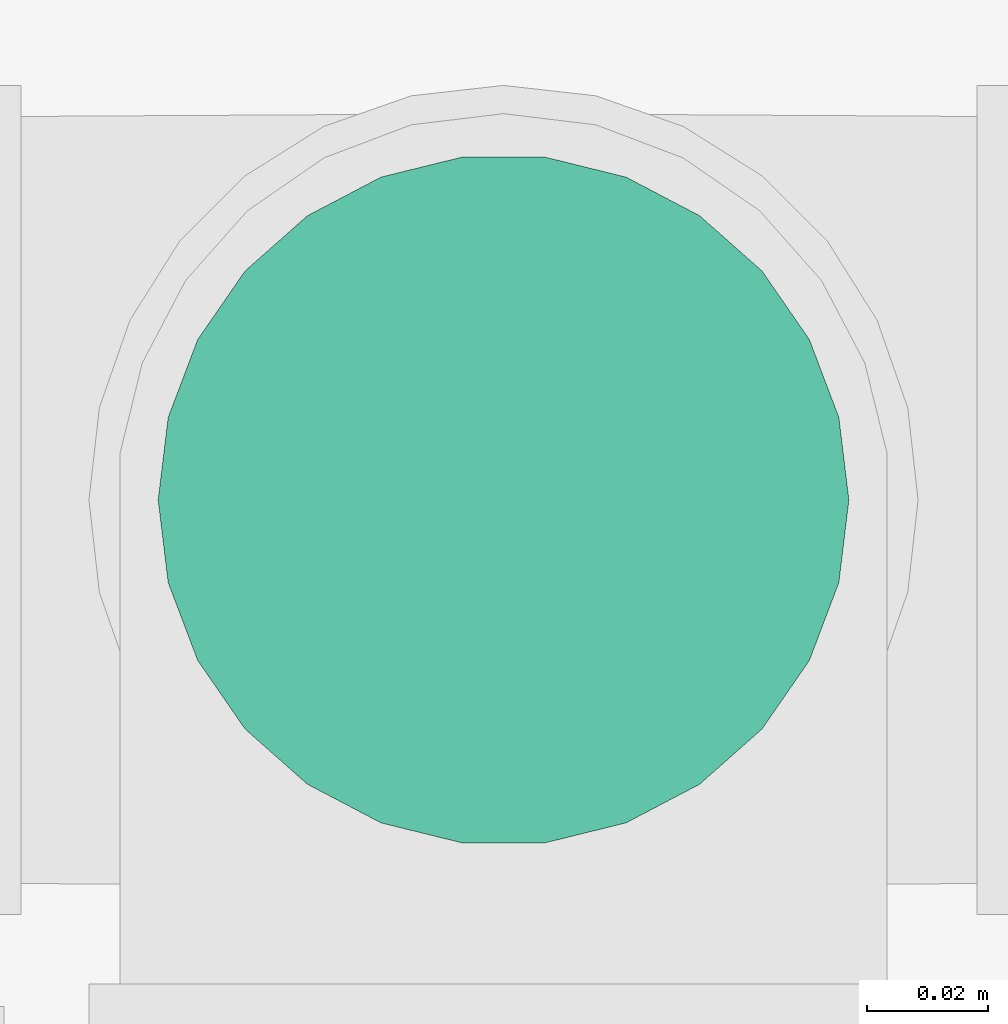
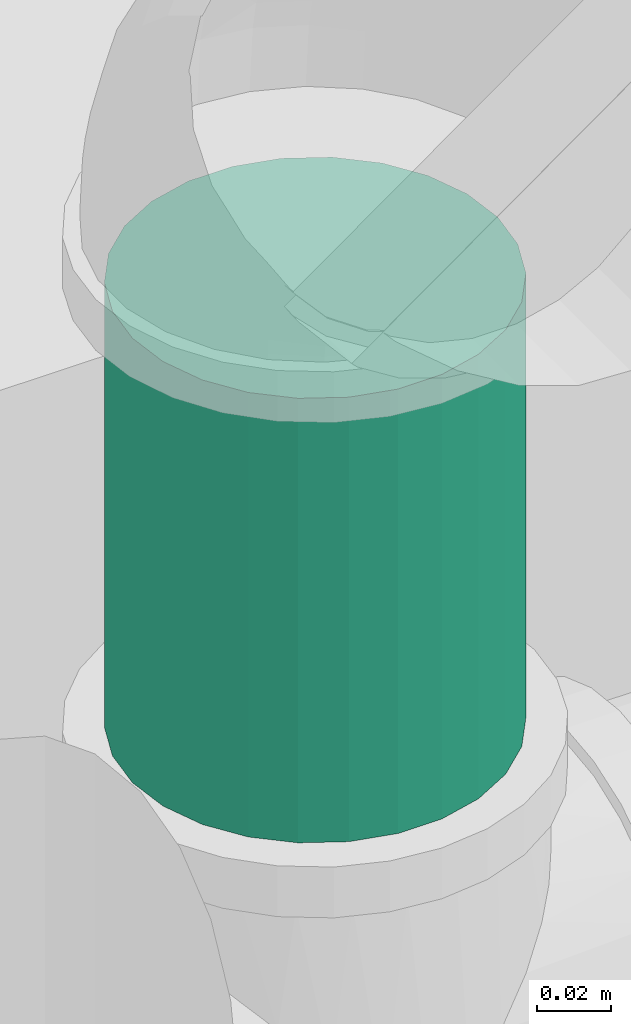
# One storey, part 68 of 108: 1 pipe segment.
"""IFC4 building model written with IfcOpenShell, lengths in feet."""

from ifc_helpers import new_model, entity, si_unit, converted_unit, derived_unit, direction, frame, origin, origin_2d_with_axis, place, context, subcontext, project, spatial, circle, extrude, type_object, element, save


model = new_model("IFC4")

# Units and contexts
model_context = context("Model", 3, precision=0.0001, world=origin(), true_north=direction((6.12303176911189e-17, 1.0)))
body_context = subcontext(model_context, "Body", "Model", "MODEL_VIEW")
ifc_project = project(units=[converted_unit("LENGTHUNIT", "FOOT", entity("IfcRatioMeasure", 0.3048), si_unit("LENGTHUNIT", "METRE"), dimensions=[1, 0, 0, 0, 0, 0, 0]), converted_unit("AREAUNIT", "SQUARE FOOT", entity("IfcRatioMeasure", 0.09290304), si_unit("AREAUNIT", "SQUARE_METRE"), dimensions=[2, 0, 0, 0, 0, 0, 0]), converted_unit("VOLUMEUNIT", "CUBIC FOOT", entity("IfcRatioMeasure", 0.028316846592), si_unit("VOLUMEUNIT", "CUBIC_METRE"), dimensions=[3, 0, 0, 0, 0, 0, 0]), converted_unit("PLANEANGLEUNIT", "DEGREE", entity("IfcRatioMeasure", 0.0174532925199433), si_unit("PLANEANGLEUNIT", "RADIAN"), dimensions=[0, 0, 0, 0, 0, 0, 0]), si_unit("MASSUNIT", "GRAM", prefix="KILO"), derived_unit("MASSDENSITYUNIT", [(si_unit("MASSUNIT", "GRAM", prefix="KILO"), 1), (si_unit("LENGTHUNIT", "METRE"), -3)]), si_unit("TIMEUNIT", "SECOND"), si_unit("FREQUENCYUNIT", "HERTZ"), si_unit("THERMODYNAMICTEMPERATUREUNIT", "DEGREE_CELSIUS"), derived_unit("THERMALTRANSMITTANCEUNIT", [(si_unit("MASSUNIT", "GRAM", prefix="KILO"), 1), (si_unit("THERMODYNAMICTEMPERATUREUNIT", "KELVIN"), -1), (si_unit("TIMEUNIT", "SECOND"), -3)]), derived_unit("VOLUMETRICFLOWRATEUNIT", [(si_unit("LENGTHUNIT", "METRE"), 3), (si_unit("TIMEUNIT", "SECOND"), -1)]), si_unit("ELECTRICCURRENTUNIT", "AMPERE"), si_unit("ELECTRICVOLTAGEUNIT", "VOLT"), si_unit("POWERUNIT", "WATT"), si_unit("FORCEUNIT", "NEWTON"), si_unit("ILLUMINANCEUNIT", "LUX"), si_unit("LUMINOUSFLUXUNIT", "LUMEN"), si_unit("LUMINOUSINTENSITYUNIT", "CANDELA"), derived_unit("USERDEFINED", [(si_unit("MASSUNIT", "GRAM", prefix="KILO"), -1), (si_unit("LENGTHUNIT", "METRE"), -2), (si_unit("TIMEUNIT", "SECOND"), 3), (si_unit("LUMINOUSFLUXUNIT", "LUMEN"), 1)]), derived_unit("LINEARVELOCITYUNIT", [(si_unit("LENGTHUNIT", "METRE"), 1), (si_unit("TIMEUNIT", "SECOND"), -1)]), si_unit("PRESSUREUNIT", "PASCAL"), derived_unit("USERDEFINED", [(si_unit("LENGTHUNIT", "METRE"), -2), (si_unit("MASSUNIT", "GRAM", prefix="KILO"), 1), (si_unit("TIMEUNIT", "SECOND"), -2)])], contexts=[model_context])

# Site, building, storey
site_placement = place(None, origin())
site = spatial("IfcSite", under=ifc_project, at=site_placement, Name="Default", CompositionType="ELEMENT")
building_placement = place(site_placement, origin())
building = spatial("IfcBuilding", under=site, at=building_placement, CompositionType="ELEMENT")
storey_placement = place(building_placement, frame((0.0, 0.0, 168.0)))
storey = spatial("IfcBuildingStorey", under=building, at=storey_placement, Name="Level 15", CompositionType="ELEMENT", Elevation=168.0)

# Pipe segment
pipe_segment_type = type_object("IfcPipeSegmentType", Name="Pipe Types:Hydronic", PredefinedType="NOTDEFINED")
pipe_segment_placement = place(storey_placement, frame((-30.9087492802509, 11.9370127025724, 9.86334635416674)))
element("IfcPipeSegment", 1, at=pipe_segment_placement, inside=storey, type_object=pipe_segment_type, Name="Pipe Types:Hydronic", ObjectType="Pipe Types:Hydronic", PredefinedType="NOTDEFINED", context=body_context, shape_type="SweptSolid", body=[
    extrude(circle(Radius=0.1875, at=origin_2d_with_axis()), frame((0.192733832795, 0.192733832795, 0.0), z_axis=(0.0, 0.0, 1.0), x_axis=(-1.0, 0.0, 0.0)), (0.0, 0.0, 1.0), 0.482213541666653),
])

save(model, "model.ifc")
